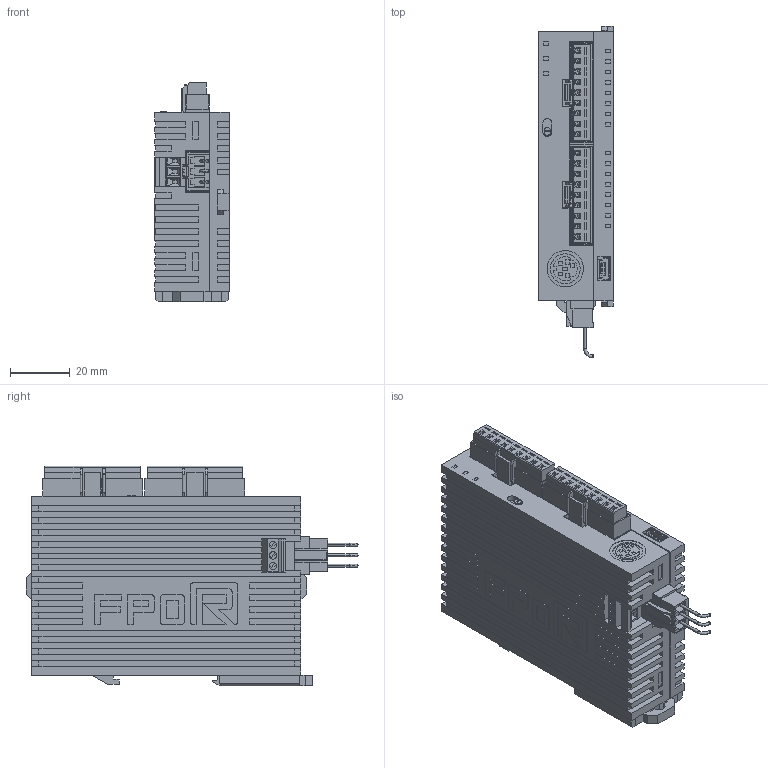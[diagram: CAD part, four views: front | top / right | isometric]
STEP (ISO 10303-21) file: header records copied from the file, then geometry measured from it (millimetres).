
FILE_DESCRIPTION (( 'STEP AP203' ), '1' );
FILE_NAME ('130628_afp0rc14crm.STEP', '2013-06-28T02:48:53', ( 'sunx' ), ( 'sunx' ), 'SwSTEP 2.0', 'SolidWorks 2010', '' );
FILE_SCHEMA (( 'CONFIG_CONTROL_DESIGN' ));
Products named in the file (1): 130628_afp0rc14crm
Bounding box: 25 x 111.2 x 73.6 mm (x, y, z)
Volume: 137308.6 mm3; surface area: 30882.7 mm2
Topology: 1 solids, 1 shells, 1589 faces, 4257 edges, 2768 vertices
Faces by surface type: plane 1490, cylinder 75, bspline 18, torus 6
Entity records: 48825 total; most frequent: CARTESIAN_POINT 8975, ORIENTED_EDGE 8514, DIRECTION 7526, EDGE_CURVE 4257, VECTOR 4072, LINE 4072, VERTEX_POINT 2768, EDGE_LOOP 1741
